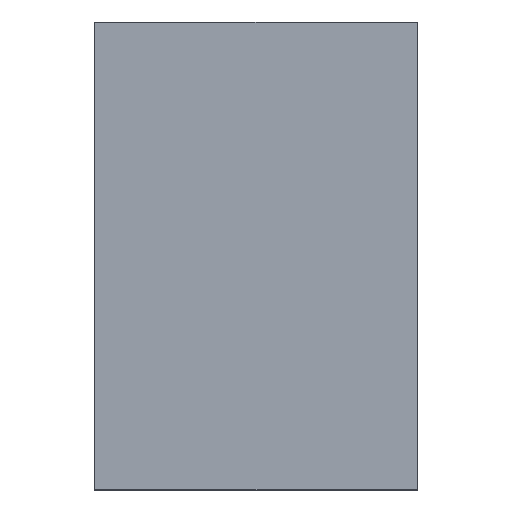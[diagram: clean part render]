
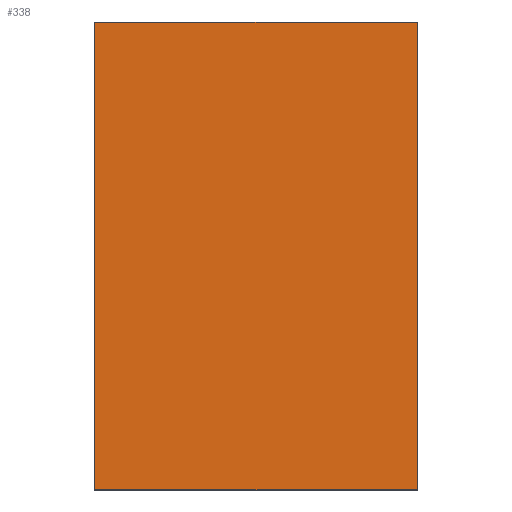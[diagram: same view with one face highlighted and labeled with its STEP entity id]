
A CAD part, top view. The second image highlights one B-rep face of the part: STEP entity #338.
In plain terms, the highlighted planar face has unit normal (0, 0, 1).
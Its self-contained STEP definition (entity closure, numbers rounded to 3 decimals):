
#24 = VERTEX_POINT('',#25);
#25 = CARTESIAN_POINT('',(155.,-225.,6.));
#32 = PLANE('',#33);
#33 = AXIS2_PLACEMENT_3D('',#34,#35,#36);
#34 = CARTESIAN_POINT('',(155.,-225.,0.));
#35 = DIRECTION('',(-0.,1.,-0.));
#36 = DIRECTION('',(1.,0.,0.));
#44 = PLANE('',#45);
#45 = AXIS2_PLACEMENT_3D('',#46,#47,#48);
#46 = CARTESIAN_POINT('',(155.,225.,0.));
#47 = DIRECTION('',(-1.,-0.,-0.));
#48 = DIRECTION('',(0.,1.,0.));
#56 = EDGE_CURVE('',#24,#57,#59,.T.);
#57 = VERTEX_POINT('',#58);
#58 = CARTESIAN_POINT('',(-155.,-225.,6.));
#59 = SURFACE_CURVE('',#60,(#64,#71),.PCURVE_S1.);
#60 = LINE('',#61,#62);
#61 = CARTESIAN_POINT('',(155.,-225.,6.));
#62 = VECTOR('',#63,1.);
#63 = DIRECTION('',(-1.,-0.,-0.));
#64 = PCURVE('',#32,#65);
#65 = DEFINITIONAL_REPRESENTATION('',(#66),#70);
#66 = LINE('',#67,#68);
#67 = CARTESIAN_POINT('',(-0.,-6.));
#68 = VECTOR('',#69,1.);
#69 = DIRECTION('',(-1.,0.));
#70 = ( GEOMETRIC_REPRESENTATION_CONTEXT(2) 
PARAMETRIC_REPRESENTATION_CONTEXT() REPRESENTATION_CONTEXT('2D SPACE',''
  ) );
#71 = PCURVE('',#72,#77);
#72 = PLANE('',#73);
#73 = AXIS2_PLACEMENT_3D('',#74,#75,#76);
#74 = CARTESIAN_POINT('',(0.,0.,6.));
#75 = DIRECTION('',(-0.,-0.,1.));
#76 = DIRECTION('',(1.,0.,0.));
#77 = DEFINITIONAL_REPRESENTATION('',(#78),#82);
#78 = LINE('',#79,#80);
#79 = CARTESIAN_POINT('',(155.,-225.));
#80 = VECTOR('',#81,1.);
#81 = DIRECTION('',(-1.,0.));
#82 = ( GEOMETRIC_REPRESENTATION_CONTEXT(2) 
PARAMETRIC_REPRESENTATION_CONTEXT() REPRESENTATION_CONTEXT('2D SPACE',''
  ) );
#100 = PLANE('',#101);
#101 = AXIS2_PLACEMENT_3D('',#102,#103,#104);
#102 = CARTESIAN_POINT('',(-155.,-225.,0.));
#103 = DIRECTION('',(1.,-0.,-0.));
#104 = DIRECTION('',(0.,-1.,0.));
#142 = EDGE_CURVE('',#57,#143,#145,.T.);
#143 = VERTEX_POINT('',#144);
#144 = CARTESIAN_POINT('',(-155.,225.,6.));
#145 = SURFACE_CURVE('',#146,(#150,#157),.PCURVE_S1.);
#146 = LINE('',#147,#148);
#147 = CARTESIAN_POINT('',(-155.,-225.,6.));
#148 = VECTOR('',#149,1.);
#149 = DIRECTION('',(-0.,1.,-0.));
#150 = PCURVE('',#100,#151);
#151 = DEFINITIONAL_REPRESENTATION('',(#152),#156);
#152 = LINE('',#153,#154);
#153 = CARTESIAN_POINT('',(-0.,-6.));
#154 = VECTOR('',#155,1.);
#155 = DIRECTION('',(-1.,0.));
#156 = ( GEOMETRIC_REPRESENTATION_CONTEXT(2) 
PARAMETRIC_REPRESENTATION_CONTEXT() REPRESENTATION_CONTEXT('2D SPACE',''
  ) );
#157 = PCURVE('',#72,#158);
#158 = DEFINITIONAL_REPRESENTATION('',(#159),#163);
#159 = LINE('',#160,#161);
#160 = CARTESIAN_POINT('',(-155.,-225.));
#161 = VECTOR('',#162,1.);
#162 = DIRECTION('',(-0.,1.));
#163 = ( GEOMETRIC_REPRESENTATION_CONTEXT(2) 
PARAMETRIC_REPRESENTATION_CONTEXT() REPRESENTATION_CONTEXT('2D SPACE',''
  ) );
#181 = PLANE('',#182);
#182 = AXIS2_PLACEMENT_3D('',#183,#184,#185);
#183 = CARTESIAN_POINT('',(-155.,225.,0.));
#184 = DIRECTION('',(-0.,-1.,-0.));
#185 = DIRECTION('',(-1.,0.,0.));
#218 = EDGE_CURVE('',#143,#219,#221,.T.);
#219 = VERTEX_POINT('',#220);
#220 = CARTESIAN_POINT('',(155.,225.,6.));
#221 = SURFACE_CURVE('',#222,(#226,#233),.PCURVE_S1.);
#222 = LINE('',#223,#224);
#223 = CARTESIAN_POINT('',(-155.,225.,6.));
#224 = VECTOR('',#225,1.);
#225 = DIRECTION('',(1.,-0.,-0.));
#226 = PCURVE('',#181,#227);
#227 = DEFINITIONAL_REPRESENTATION('',(#228),#232);
#228 = LINE('',#229,#230);
#229 = CARTESIAN_POINT('',(-0.,-6.));
#230 = VECTOR('',#231,1.);
#231 = DIRECTION('',(-1.,0.));
#232 = ( GEOMETRIC_REPRESENTATION_CONTEXT(2) 
PARAMETRIC_REPRESENTATION_CONTEXT() REPRESENTATION_CONTEXT('2D SPACE',''
  ) );
#233 = PCURVE('',#72,#234);
#234 = DEFINITIONAL_REPRESENTATION('',(#235),#239);
#235 = LINE('',#236,#237);
#236 = CARTESIAN_POINT('',(-155.,225.));
#237 = VECTOR('',#238,1.);
#238 = DIRECTION('',(1.,-0.));
#239 = ( GEOMETRIC_REPRESENTATION_CONTEXT(2) 
PARAMETRIC_REPRESENTATION_CONTEXT() REPRESENTATION_CONTEXT('2D SPACE',''
  ) );
#289 = EDGE_CURVE('',#219,#24,#290,.T.);
#290 = SURFACE_CURVE('',#291,(#295,#302),.PCURVE_S1.);
#291 = LINE('',#292,#293);
#292 = CARTESIAN_POINT('',(155.,225.,6.));
#293 = VECTOR('',#294,1.);
#294 = DIRECTION('',(-0.,-1.,-0.));
#295 = PCURVE('',#44,#296);
#296 = DEFINITIONAL_REPRESENTATION('',(#297),#301);
#297 = LINE('',#298,#299);
#298 = CARTESIAN_POINT('',(-0.,-6.));
#299 = VECTOR('',#300,1.);
#300 = DIRECTION('',(-1.,0.));
#301 = ( GEOMETRIC_REPRESENTATION_CONTEXT(2) 
PARAMETRIC_REPRESENTATION_CONTEXT() REPRESENTATION_CONTEXT('2D SPACE',''
  ) );
#302 = PCURVE('',#72,#303);
#303 = DEFINITIONAL_REPRESENTATION('',(#304),#308);
#304 = LINE('',#305,#306);
#305 = CARTESIAN_POINT('',(155.,225.));
#306 = VECTOR('',#307,1.);
#307 = DIRECTION('',(-0.,-1.));
#308 = ( GEOMETRIC_REPRESENTATION_CONTEXT(2) 
PARAMETRIC_REPRESENTATION_CONTEXT() REPRESENTATION_CONTEXT('2D SPACE',''
  ) );
#338 = ADVANCED_FACE('',(#339),#72,.T.);
#339 = FACE_BOUND('',#340,.F.);
#340 = EDGE_LOOP('',(#341,#342,#343,#344));
#341 = ORIENTED_EDGE('',*,*,#56,.T.);
#342 = ORIENTED_EDGE('',*,*,#142,.T.);
#343 = ORIENTED_EDGE('',*,*,#218,.T.);
#344 = ORIENTED_EDGE('',*,*,#289,.T.);
